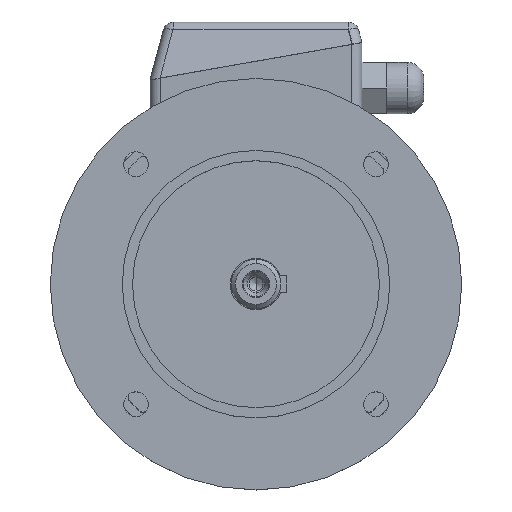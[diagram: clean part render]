
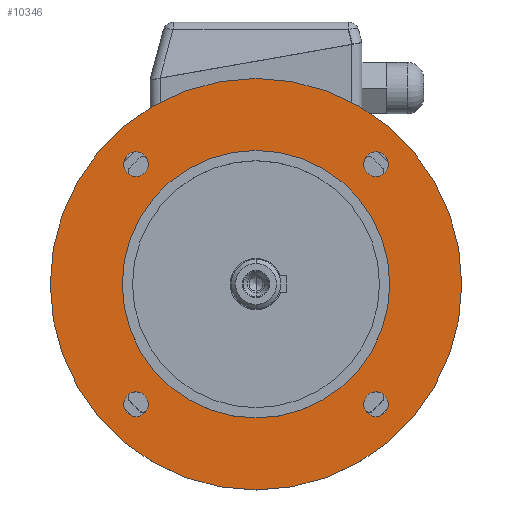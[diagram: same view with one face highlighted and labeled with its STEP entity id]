
A CAD part, top view. The second image highlights one B-rep face of the part: STEP entity #10346.
In plain terms, the highlighted planar face has unit normal (0, 0, 1).
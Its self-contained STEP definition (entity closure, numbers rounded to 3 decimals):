
#16503 = CARTESIAN_POINT ( 'NONE',  ( -52.336, 58.336, 40. ) ) ;
#16616 = VERTEX_POINT ( 'NONE', #10742 ) ;
#16665 = ORIENTED_EDGE ( 'NONE', *, *, #12623, .F. ) ;
#16744 = CIRCLE ( 'NONE', #16745, 6. ) ;
#16745 = AXIS2_PLACEMENT_3D ( 'NONE', #16746, #16747, #16748 ) ;
#16746 = CARTESIAN_POINT ( 'NONE',  ( -58.336, 58.336, 40. ) ) ;
#16747 = DIRECTION ( 'NONE',  ( 0., 0., 1. ) ) ;
#16748 = DIRECTION ( 'NONE',  ( 1., 0., 0. ) ) ;
#16883 = VERTEX_POINT ( 'NONE', #10981 ) ;
#517 = EDGE_LOOP ( 'NONE', ( #17697, #16665 ) ) ;
#17031 = CARTESIAN_POINT ( 'NONE',  ( -64.336, -58.336, 40. ) ) ;
#17141 = EDGE_CURVE ( 'NONE', #16883, #16616, #11217, .T. ) ;
#808 = ORIENTED_EDGE ( 'NONE', *, *, #4511, .F. ) ;
#17272 = EDGE_CURVE ( 'NONE', #12559, #12897, #11319, .T. ) ;
#17697 = ORIENTED_EDGE ( 'NONE', *, *, #17272, .F. ) ;
#17712 = CARTESIAN_POINT ( 'NONE',  ( -64.336, 58.336, 40. ) ) ;
#1396 = EDGE_CURVE ( 'NONE', #4254, #5533, #14261, .T. ) ;
#1538 = CARTESIAN_POINT ( 'NONE',  ( 64.336, 58.336, 40. ) ) ;
#1721 = CIRCLE ( 'NONE', #1722, 6. ) ;
#1722 = AXIS2_PLACEMENT_3D ( 'NONE', #1723, #1724, #1725 ) ;
#1723 = CARTESIAN_POINT ( 'NONE',  ( 58.336, 58.336, 40. ) ) ;
#1724 = DIRECTION ( 'NONE',  ( 0., 0., 1. ) ) ;
#1725 = DIRECTION ( 'NONE',  ( 1., 0., 0. ) ) ;
#1770 = CIRCLE ( 'NONE', #1771, 6. ) ;
#1771 = AXIS2_PLACEMENT_3D ( 'NONE', #1777, #1778, #1779 ) ;
#1777 = CARTESIAN_POINT ( 'NONE',  ( -58.336, 58.336, 40. ) ) ;
#1778 = DIRECTION ( 'NONE',  ( 0., 0., 1. ) ) ;
#1779 = DIRECTION ( 'NONE',  ( 1., 0., 0. ) ) ;
#2797 = CARTESIAN_POINT ( 'NONE',  ( 52.336, 58.336, 40. ) ) ;
#3008 = FACE_BOUND ( 'NONE', #10069, .T. ) ;
#3009 = FACE_BOUND ( 'NONE', #8140, .T. ) ;
#3010 = FACE_BOUND ( 'NONE', #517, .T. ) ;
#3011 = FACE_BOUND ( 'NONE', #16379, .T. ) ;
#3012 = FACE_BOUND ( 'NONE', #14477, .T. ) ;
#3013 = FACE_OUTER_BOUND ( 'NONE', #13057, .T. ) ;
#3014 = PLANE ( 'NONE',  #3015 ) ;
#3015 = AXIS2_PLACEMENT_3D ( 'NONE', #3016, #3017, #3018 ) ;
#3016 = CARTESIAN_POINT ( 'NONE',  ( 0., 100., 40. ) ) ;
#3017 = DIRECTION ( 'NONE',  ( 0., 0., 1. ) ) ;
#3018 = DIRECTION ( 'NONE',  ( 0., -1., 0. ) ) ;
#3953 = CIRCLE ( 'NONE', #3954, 100. ) ;
#3954 = AXIS2_PLACEMENT_3D ( 'NONE', #3955, #3956, #3957 ) ;
#3955 = CARTESIAN_POINT ( 'NONE',  ( 0., 0., 40. ) ) ;
#3956 = DIRECTION ( 'NONE',  ( 0., 0., -1. ) ) ;
#3957 = DIRECTION ( 'NONE',  ( 0., 1., 0. ) ) ;
#4254 = VERTEX_POINT ( 'NONE', #16073 ) ;
#4511 = EDGE_CURVE ( 'NONE', #5533, #4254, #16198, .T. ) ;
#4928 = VERTEX_POINT ( 'NONE', #16503 ) ;
#5188 = EDGE_CURVE ( 'NONE', #6419, #4928, #16744, .T. ) ;
#5533 = VERTEX_POINT ( 'NONE', #17031 ) ;
#6105 = CARTESIAN_POINT ( 'NONE',  ( 64.336, -58.336, 40. ) ) ;
#6419 = VERTEX_POINT ( 'NONE', #17712 ) ;
#6428 = CIRCLE ( 'NONE', #6429, 6. ) ;
#6429 = AXIS2_PLACEMENT_3D ( 'NONE', #6430, #6431, #6432 ) ;
#6430 = CARTESIAN_POINT ( 'NONE',  ( 58.336, -58.336, 40. ) ) ;
#6431 = DIRECTION ( 'NONE',  ( 0., 0., 1. ) ) ;
#6432 = DIRECTION ( 'NONE',  ( 1., 0., 0. ) ) ;
#7130 = CARTESIAN_POINT ( 'NONE',  ( 52.336, -58.336, 40. ) ) ;
#7335 = ORIENTED_EDGE ( 'NONE', *, *, #1396, .F. ) ;
#7913 = CIRCLE ( 'NONE', #7914, 65. ) ;
#7914 = AXIS2_PLACEMENT_3D ( 'NONE', #7915, #7919, #7920 ) ;
#7915 = CARTESIAN_POINT ( 'NONE',  ( 0., 0., 40. ) ) ;
#7919 = DIRECTION ( 'NONE',  ( 0., 0., -1. ) ) ;
#7920 = DIRECTION ( 'NONE',  ( 0., 1., 0. ) ) ;
#8140 = EDGE_LOOP ( 'NONE', ( #7335, #808 ) ) ;
#8433 = ORIENTED_EDGE ( 'NONE', *, *, #5188, .F. ) ;
#8701 = VERTEX_POINT ( 'NONE', #1538 ) ;
#8968 = EDGE_CURVE ( 'NONE', #10000, #8701, #1721, .T. ) ;
#9035 = EDGE_CURVE ( 'NONE', #4928, #6419, #1770, .T. ) ;
#9095 = CARTESIAN_POINT ( 'NONE',  ( 0., 65., 40. ) ) ;
#9295 = CIRCLE ( 'NONE', #9296, 65. ) ;
#9296 = AXIS2_PLACEMENT_3D ( 'NONE', #9297, #9298, #9299 ) ;
#9297 = CARTESIAN_POINT ( 'NONE',  ( 0., 0., 40. ) ) ;
#9298 = DIRECTION ( 'NONE',  ( 0., 0., -1. ) ) ;
#9299 = DIRECTION ( 'NONE',  ( 0., 1., 0. ) ) ;
#9465 = ORIENTED_EDGE ( 'NONE', *, *, #9035, .F. ) ;
#9762 = CIRCLE ( 'NONE', #9770, 6. ) ;
#9770 = AXIS2_PLACEMENT_3D ( 'NONE', #9771, #9772, #9773 ) ;
#9771 = CARTESIAN_POINT ( 'NONE',  ( 58.336, 58.336, 40. ) ) ;
#9772 = DIRECTION ( 'NONE',  ( 0., 0., 1. ) ) ;
#9773 = DIRECTION ( 'NONE',  ( 1., 0., 0. ) ) ;
#10000 = VERTEX_POINT ( 'NONE', #2797 ) ;
#10069 = EDGE_LOOP ( 'NONE', ( #9465, #8433 ) ) ;
#10171 = CARTESIAN_POINT ( 'NONE',  ( 0., -65., 40. ) ) ;
#10346 = ADVANCED_FACE ( 'NONE', ( #3008, #3009, #3010, #3011, #3012, #3013 ), #3014, .T. ) ;
#10742 = CARTESIAN_POINT ( 'NONE',  ( 0., -100., 40. ) ) ;
#10981 = CARTESIAN_POINT ( 'NONE',  ( 0., 100., 40. ) ) ;
#11217 = CIRCLE ( 'NONE', #11218, 100. ) ;
#11218 = AXIS2_PLACEMENT_3D ( 'NONE', #11219, #11227, #11228 ) ;
#11219 = CARTESIAN_POINT ( 'NONE',  ( 0., 0., 40. ) ) ;
#11227 = DIRECTION ( 'NONE',  ( 0., 0., -1. ) ) ;
#11228 = DIRECTION ( 'NONE',  ( 0., 1., 0. ) ) ;
#11319 = CIRCLE ( 'NONE', #11320, 6. ) ;
#11320 = AXIS2_PLACEMENT_3D ( 'NONE', #11321, #11322, #11323 ) ;
#11321 = CARTESIAN_POINT ( 'NONE',  ( 58.336, -58.336, 40. ) ) ;
#11322 = DIRECTION ( 'NONE',  ( 0., 0., 1. ) ) ;
#11323 = DIRECTION ( 'NONE',  ( 1., 0., 0. ) ) ;
#11827 = EDGE_CURVE ( 'NONE', #16616, #16883, #3953, .T. ) ;
#12559 = VERTEX_POINT ( 'NONE', #6105 ) ;
#12623 = EDGE_CURVE ( 'NONE', #12897, #12559, #6428, .T. ) ;
#12741 = ORIENTED_EDGE ( 'NONE', *, *, #11827, .F. ) ;
#12897 = VERTEX_POINT ( 'NONE', #7130 ) ;
#12898 = ORIENTED_EDGE ( 'NONE', *, *, #17141, .F. ) ;
#13057 = EDGE_LOOP ( 'NONE', ( #12898, #12741 ) ) ;
#13122 = EDGE_CURVE ( 'NONE', #15960, #14476, #7913, .T. ) ;
#13230 = ORIENTED_EDGE ( 'NONE', *, *, #13122, .T. ) ;
#14077 = ORIENTED_EDGE ( 'NONE', *, *, #14738, .T. ) ;
#14261 = CIRCLE ( 'NONE', #14262, 6. ) ;
#14262 = AXIS2_PLACEMENT_3D ( 'NONE', #14263, #14270, #14271 ) ;
#14263 = CARTESIAN_POINT ( 'NONE',  ( -58.336, -58.336, 40. ) ) ;
#14270 = DIRECTION ( 'NONE',  ( 0., 0., 1. ) ) ;
#14271 = DIRECTION ( 'NONE',  ( 1., 0., 0. ) ) ;
#14476 = VERTEX_POINT ( 'NONE', #9095 ) ;
#14477 = EDGE_LOOP ( 'NONE', ( #14077, #13230 ) ) ;
#14738 = EDGE_CURVE ( 'NONE', #14476, #15960, #9295, .T. ) ;
#14761 = ORIENTED_EDGE ( 'NONE', *, *, #8968, .F. ) ;
#15355 = EDGE_CURVE ( 'NONE', #8701, #10000, #9762, .T. ) ;
#15783 = ORIENTED_EDGE ( 'NONE', *, *, #15355, .F. ) ;
#15960 = VERTEX_POINT ( 'NONE', #10171 ) ;
#16073 = CARTESIAN_POINT ( 'NONE',  ( -52.336, -58.336, 40. ) ) ;
#16198 = CIRCLE ( 'NONE', #16199, 6. ) ;
#16199 = AXIS2_PLACEMENT_3D ( 'NONE', #16200, #16201, #16202 ) ;
#16200 = CARTESIAN_POINT ( 'NONE',  ( -58.336, -58.336, 40. ) ) ;
#16201 = DIRECTION ( 'NONE',  ( 0., 0., 1. ) ) ;
#16202 = DIRECTION ( 'NONE',  ( 1., 0., 0. ) ) ;
#16379 = EDGE_LOOP ( 'NONE', ( #15783, #14761 ) ) ;
